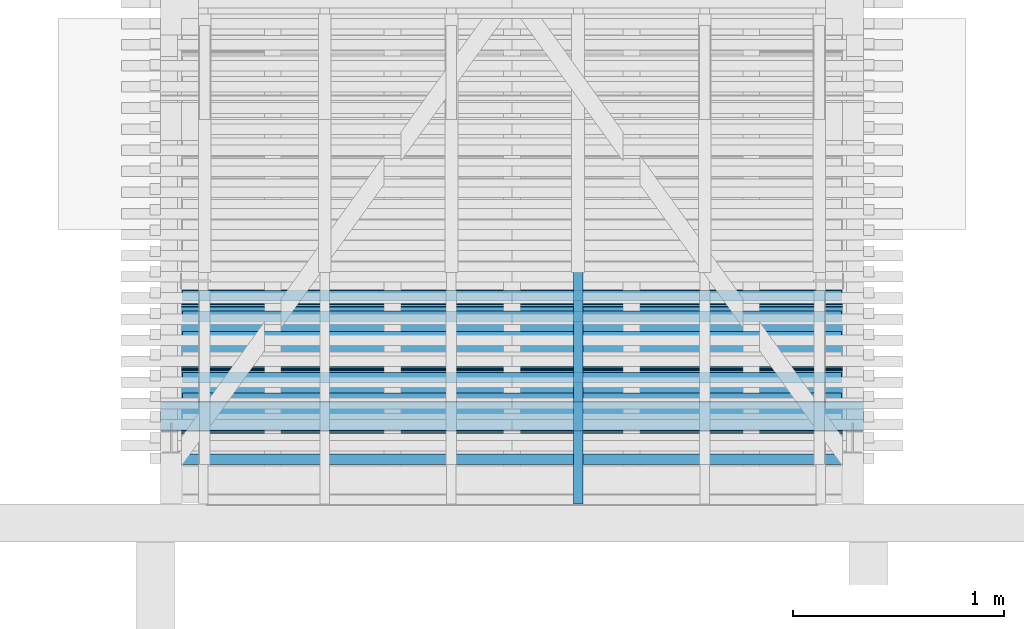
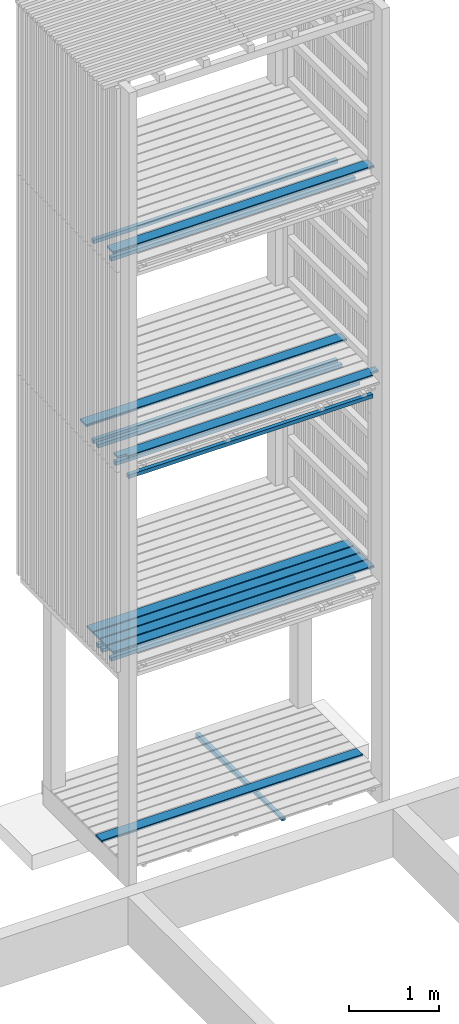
# One storey, part 138 of 182: 18 beams.
"""IFC2X3 building model written with IfcOpenShell, lengths in metres."""

from ifc_helpers import new_model, si_unit, frame, origin, place, context, project, spatial, faceted_brep, element, save


model = new_model("IFC2X3")

# Units and contexts
model_context = context("Model", 3, precision=1e-06, world=origin())
ifc_project = project(units=[si_unit("LENGTHUNIT", "METRE"), si_unit("PLANEANGLEUNIT", "RADIAN")], contexts=[model_context])

# Site, building, storey
site = spatial("IfcSite", under=ifc_project, CompositionType="ELEMENT")
building = spatial("IfcBuilding", under=site, CompositionType="ELEMENT")
storey = spatial("IfcBuildingStorey", under=building, Name="vs", CompositionType="ELEMENT", Elevation=-0.85)

# Beams
placement = place(None, origin())
beam_1_placement = place(placement, frame((36.38499999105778, 11.134577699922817, 0.033500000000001), z_axis=(0.0, 0.0, 1.0), x_axis=(-1.0, -1e-15, 0.0)))
element("IfcBeam", 1, at=beam_1_placement, inside=storey, Name="Caillebotis", context=model_context, shape_type="Brep", body=[
    faceted_brep([(3.329999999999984, -0.067500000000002, 0.0135), (3.329999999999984, -0.072500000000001, 0.008500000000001), (3.329999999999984, -0.072500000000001, -0.013500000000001), (3.329999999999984, 0.072499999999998, -0.013500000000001), (3.329999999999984, 0.072499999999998, 0.0085), (3.329999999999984, 0.067499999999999, 0.0135), (0.0, 0.067499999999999, 0.0135), (0.0, 0.072500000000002, 0.0085), (0.0, 0.072500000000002, -0.013500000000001), (0.0, -0.072500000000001, -0.013500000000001), (0.0, -0.072500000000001, 0.008500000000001), (0.0, -0.067499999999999, 0.0135), (3.329999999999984, -0.072500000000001, -0.013500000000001), (3.329999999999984, -0.072500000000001, 0.008500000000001), (0.0, -0.072500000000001, 0.008500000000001), (0.0, -0.072500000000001, -0.013500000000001), (3.329999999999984, 0.072499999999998, -0.013500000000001), (3.329999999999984, -0.072500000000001, -0.013500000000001), (0.0, -0.072500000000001, -0.013500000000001), (0.0, 0.072500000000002, -0.013500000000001), (3.329999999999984, 0.072499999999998, 0.0085), (3.329999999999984, 0.072499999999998, -0.013500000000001), (0.0, 0.072500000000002, -0.013500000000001), (0.0, 0.072500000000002, 0.0085), (3.329999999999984, 0.067499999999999, 0.0135), (3.329999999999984, 0.072499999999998, 0.0085), (0.0, 0.072500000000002, 0.0085), (0.0, 0.067499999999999, 0.0135), (3.329999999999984, -0.067500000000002, 0.0135), (3.329999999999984, 0.067499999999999, 0.0135), (0.0, 0.067499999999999, 0.0135), (0.0, -0.067499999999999, 0.0135), (0.0, -0.072500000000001, 0.008500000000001), (3.329999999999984, -0.072500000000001, 0.008500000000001), (3.329999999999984, -0.067500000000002, 0.0135), (0.0, -0.067499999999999, 0.0135)], [[[0, 1, 2, 3, 4, 5]], [[6, 7, 8, 9, 10, 11]], [[12, 13, 14, 15]], [[16, 17, 18, 19]], [[20, 21, 22, 23]], [[24, 25, 26, 27]], [[28, 29, 30, 31]], [[32, 33, 34, 35]]]),
])
beam_2_placement = place(placement, frame((36.38499999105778, 11.484577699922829, 5.433499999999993), z_axis=(0.0, 0.0, 1.0), x_axis=(-1.0, -8e-15, 0.0)))
element("IfcBeam", 2, at=beam_2_placement, inside=storey, Name="Caillebotis", context=model_context, shape_type="Brep", body=[
    faceted_brep([(3.329999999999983, -0.072500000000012, -0.0135), (3.329999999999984, 0.072499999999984, -0.0135), (3.329999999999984, 0.072499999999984, 0.0085), (3.329999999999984, 0.067499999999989, 0.0135), (3.329999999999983, -0.067500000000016, 0.0135), (3.329999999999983, -0.072500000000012, 0.008500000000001), (-1.5e-14, -0.072499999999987, 0.008500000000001), (-1.5e-14, -0.067499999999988, 0.0135), (-1.4e-14, 0.067500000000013, 0.0135), (-1.4e-14, 0.072500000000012, 0.0085), (-1.4e-14, 0.072500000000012, -0.0135), (-1.5e-14, -0.072499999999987, -0.0135), (3.329999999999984, 0.072499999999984, 0.0085), (3.329999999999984, 0.072499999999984, -0.0135), (-1.4e-14, 0.072500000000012, -0.0135), (-1.4e-14, 0.072500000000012, 0.0085), (3.329999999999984, 0.067499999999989, 0.0135), (3.329999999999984, 0.072499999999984, 0.0085), (-1.4e-14, 0.072500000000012, 0.0085), (-1.4e-14, 0.067500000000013, 0.0135), (3.329999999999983, -0.067500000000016, 0.0135), (3.329999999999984, 0.067499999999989, 0.0135), (-1.4e-14, 0.067500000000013, 0.0135), (-1.5e-14, -0.067499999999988, 0.0135), (3.329999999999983, -0.072500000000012, 0.008500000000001), (3.329999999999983, -0.067500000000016, 0.0135), (-1.5e-14, -0.067499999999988, 0.0135), (-1.5e-14, -0.072499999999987, 0.008500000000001), (3.329999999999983, -0.072500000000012, -0.0135), (3.329999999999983, -0.072500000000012, 0.008500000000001), (-1.5e-14, -0.072499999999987, 0.008500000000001), (-1.5e-14, -0.072499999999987, -0.0135), (-1.4e-14, 0.072500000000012, -0.0135), (3.329999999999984, 0.072499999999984, -0.0135), (3.329999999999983, -0.072500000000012, -0.0135), (-1.5e-14, -0.072499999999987, -0.0135)], [[[0, 1, 2, 3, 4, 5]], [[6, 7, 8, 9, 10, 11]], [[12, 13, 14, 15]], [[16, 17, 18, 19]], [[20, 21, 22, 23]], [[24, 25, 26, 27]], [[28, 29, 30, 31]], [[32, 33, 34, 35]]]),
])
beam_3_placement = place(placement, frame((35.03299999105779, 10.470077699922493, -0.015599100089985), z_axis=(0.0, 0.0, 1.0), x_axis=(0.0, 1.0, 0.0)))
element("IfcBeam", 3, at=beam_3_placement, inside=storey, Name="Calage", context=model_context, shape_type="Brep", body=[
    faceted_brep([(0.0, 0.02249999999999, 0.002600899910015), (1.91000000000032, 0.02249999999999, -0.035599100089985), (1.91000000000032, -0.022499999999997, -0.035599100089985), (0.0, -0.022499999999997, 0.002600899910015), (0.0, -0.022499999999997, 0.035599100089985), (0.0, 0.02249999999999, 0.035599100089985), (0.0, 0.02249999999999, 0.002600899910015), (0.0, -0.022499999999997, 0.002600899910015), (0.0, 0.02249999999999, 0.035599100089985), (0.0, -0.022499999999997, 0.035599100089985), (1.91000000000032, -0.022499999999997, 0.035599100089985), (1.91000000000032, 0.02249999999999, 0.035599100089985), (0.0, 0.02249999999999, 0.002600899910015), (0.0, 0.02249999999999, 0.035599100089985), (1.91000000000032, 0.02249999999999, 0.035599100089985), (1.91000000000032, 0.02249999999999, -0.035599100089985), (1.91000000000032, 0.02249999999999, -0.035599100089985), (1.91000000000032, 0.02249999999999, 0.035599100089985), (1.91000000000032, -0.022499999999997, 0.035599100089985), (1.91000000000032, -0.022499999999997, -0.035599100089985), (1.91000000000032, -0.022499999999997, -0.035599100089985), (1.91000000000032, -0.022499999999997, 0.035599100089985), (0.0, -0.022499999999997, 0.035599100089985), (0.0, -0.022499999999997, 0.002600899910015)], [[[0, 1, 2, 3]], [[4, 5, 6, 7]], [[8, 9, 10, 11]], [[12, 13, 14, 15]], [[16, 17, 18, 19]], [[20, 21, 22, 23]]]),
])
beam_4_placement = place(placement, frame((36.384999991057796, 11.034577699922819, 2.733499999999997), z_axis=(0.0, 0.0, 1.0), x_axis=(-1.0, -1e-15, 0.0)))
element("IfcBeam", 4, at=beam_4_placement, inside=storey, Name="Caillebotis", context=model_context, shape_type="Brep", body=[
    faceted_brep([(3.329999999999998, -0.072500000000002, -0.0135), (3.329999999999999, 0.072500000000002, -0.0135), (3.329999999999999, 0.072500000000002, 0.0085), (3.329999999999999, 0.067499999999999, 0.0135), (3.329999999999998, -0.067499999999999, 0.0135), (3.329999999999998, -0.072500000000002, 0.008500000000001), (0.0, -0.072499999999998, 0.008500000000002), (0.0, -0.067499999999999, 0.0135), (0.0, 0.067500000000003, 0.0135), (0.0, 0.072500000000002, 0.0085), (0.0, 0.072500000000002, -0.0135), (0.0, -0.072499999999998, -0.0135), (3.329999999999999, 0.072500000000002, 0.0085), (3.329999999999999, 0.072500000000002, -0.0135), (0.0, 0.072500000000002, -0.0135), (0.0, 0.072500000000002, 0.0085), (3.329999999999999, 0.067499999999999, 0.0135), (3.329999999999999, 0.072500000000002, 0.0085), (0.0, 0.072500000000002, 0.0085), (0.0, 0.067500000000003, 0.0135), (3.329999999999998, -0.067499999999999, 0.0135), (3.329999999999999, 0.067499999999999, 0.0135), (0.0, 0.067500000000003, 0.0135), (0.0, -0.067499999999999, 0.0135), (3.329999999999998, -0.072500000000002, 0.008500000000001), (3.329999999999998, -0.067499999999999, 0.0135), (0.0, -0.067499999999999, 0.0135), (0.0, -0.072499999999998, 0.008500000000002), (3.329999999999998, -0.072500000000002, -0.0135), (3.329999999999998, -0.072500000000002, 0.008500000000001), (0.0, -0.072499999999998, 0.008500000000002), (0.0, -0.072499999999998, -0.0135), (0.0, 0.072500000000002, -0.0135), (3.329999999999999, 0.072500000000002, -0.0135), (3.329999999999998, -0.072500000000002, -0.0135), (0.0, -0.072499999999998, -0.0135)], [[[0, 1, 2, 3, 4, 5]], [[6, 7, 8, 9, 10, 11]], [[12, 13, 14, 15]], [[16, 17, 18, 19]], [[20, 21, 22, 23]], [[24, 25, 26, 27]], [[28, 29, 30, 31]], [[32, 33, 34, 35]]]),
])
beam_5_placement = place(placement, frame((36.384999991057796, 10.884577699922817, 8.13349999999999), z_axis=(0.0, 0.0, 1.0), x_axis=(-1.0, -2e-15, 0.0)))
element("IfcBeam", 5, at=beam_5_placement, inside=storey, Name="Caillebotis", context=model_context, shape_type="Brep", body=[
    faceted_brep([(3.329999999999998, -0.072500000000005, -0.013500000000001), (3.329999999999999, 0.072499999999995, -0.013500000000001), (3.329999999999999, 0.072499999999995, 0.008499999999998), (3.329999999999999, 0.067499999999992, 0.013499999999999), (3.329999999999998, -0.067500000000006, 0.013499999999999), (3.329999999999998, -0.072500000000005, 0.0085), (0.0, -0.072500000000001, 0.0085), (0.0, -0.067499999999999, 0.013499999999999), (0.0, 0.067500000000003, 0.013499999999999), (0.0, 0.072500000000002, 0.008499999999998), (0.0, 0.072500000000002, -0.013500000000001), (0.0, -0.072500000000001, -0.013500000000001), (3.329999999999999, 0.072499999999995, 0.008499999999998), (3.329999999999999, 0.072499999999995, -0.013500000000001), (0.0, 0.072500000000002, -0.013500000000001), (0.0, 0.072500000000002, 0.008499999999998), (3.329999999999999, 0.067499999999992, 0.013499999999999), (3.329999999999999, 0.072499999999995, 0.008499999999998), (0.0, 0.072500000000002, 0.008499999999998), (0.0, 0.067500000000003, 0.013499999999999), (3.329999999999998, -0.067500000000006, 0.013499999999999), (3.329999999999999, 0.067499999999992, 0.013499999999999), (0.0, 0.067500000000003, 0.013499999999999), (0.0, -0.067499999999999, 0.013499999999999), (3.329999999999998, -0.072500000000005, 0.0085), (3.329999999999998, -0.067500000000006, 0.013499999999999), (0.0, -0.067499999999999, 0.013499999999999), (0.0, -0.072500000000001, 0.0085), (3.329999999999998, -0.072500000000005, -0.013500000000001), (3.329999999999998, -0.072500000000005, 0.0085), (0.0, -0.072500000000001, 0.0085), (0.0, -0.072500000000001, -0.013500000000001), (0.0, 0.072500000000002, -0.013500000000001), (3.329999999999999, 0.072499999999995, -0.013500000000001), (3.329999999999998, -0.072500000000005, -0.013500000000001), (0.0, -0.072500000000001, -0.013500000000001)], [[[0, 1, 2, 3, 4, 5]], [[6, 7, 8, 9, 10, 11]], [[12, 13, 14, 15]], [[16, 17, 18, 19]], [[20, 21, 22, 23]], [[24, 25, 26, 27]], [[28, 29, 30, 31]], [[32, 33, 34, 35]]]),
])
beam_6_placement = place(placement, frame((36.27999999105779, 10.680077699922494, 5.167999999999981), z_axis=(0.0, 0.0, 1.0), x_axis=(-1.0, 0.0, 0.0)))
element("IfcBeam", 6, at=beam_6_placement, inside=storey, Name="Bardage", context=model_context, shape_type="Brep", body=[
    faceted_brep([(3.120000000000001, -0.025000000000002, 0.025000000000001), (3.120000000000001, -0.025000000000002, -0.025), (3.120000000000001, 0.024999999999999, -0.025), (3.120000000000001, 0.024999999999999, 0.025000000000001), (-3e-15, 0.024999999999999, 0.025000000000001), (-3e-15, 0.024999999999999, -0.025), (-3e-15, -0.024999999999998, -0.025), (-3e-15, -0.024999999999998, 0.025000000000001), (3.120000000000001, -0.025000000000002, -0.025), (3.120000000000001, -0.025000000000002, 0.025000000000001), (-3e-15, -0.024999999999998, 0.025000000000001), (-3e-15, -0.024999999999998, -0.025), (3.120000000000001, 0.024999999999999, -0.025), (3.120000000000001, -0.025000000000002, -0.025), (-3e-15, -0.024999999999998, -0.025), (-3e-15, 0.024999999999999, -0.025), (3.120000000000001, 0.024999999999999, 0.025000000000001), (3.120000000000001, 0.024999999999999, -0.025), (-3e-15, 0.024999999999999, -0.025), (-3e-15, 0.024999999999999, 0.025000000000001), (3.120000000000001, -0.025000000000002, 0.025000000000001), (3.120000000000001, 0.024999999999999, 0.025000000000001), (-3e-15, 0.024999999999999, 0.025000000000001), (-3e-15, -0.024999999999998, 0.025000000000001)], [[[0, 1, 2, 3]], [[4, 5, 6, 7]], [[8, 9, 10, 11]], [[12, 13, 14, 15]], [[16, 17, 18, 19]], [[20, 21, 22, 23]]]),
])
beam_7_placement = place(placement, frame((36.384999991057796, 10.884577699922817, 2.733499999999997), z_axis=(0.0, 0.0, 1.0), x_axis=(-1.0, -2e-15, 0.0)))
element("IfcBeam", 7, at=beam_7_placement, inside=storey, Name="Caillebotis", context=model_context, shape_type="Brep", body=[
    faceted_brep([(3.329999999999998, -0.072500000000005, -0.0135), (3.329999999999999, 0.072499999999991, -0.0135), (3.329999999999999, 0.072499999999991, 0.0085), (3.329999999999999, 0.067499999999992, 0.0135), (3.329999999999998, -0.067500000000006, 0.0135), (3.329999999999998, -0.072500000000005, 0.008500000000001), (0.0, -0.072500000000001, 0.008500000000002), (0.0, -0.067499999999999, 0.0135), (0.0, 0.067499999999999, 0.0135), (0.0, 0.072500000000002, 0.0085), (0.0, 0.072500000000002, -0.0135), (0.0, -0.072500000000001, -0.0135), (3.329999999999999, 0.072499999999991, 0.0085), (3.329999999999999, 0.072499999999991, -0.0135), (0.0, 0.072500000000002, -0.0135), (0.0, 0.072500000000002, 0.0085), (3.329999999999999, 0.067499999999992, 0.0135), (3.329999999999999, 0.072499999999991, 0.0085), (0.0, 0.072500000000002, 0.0085), (0.0, 0.067499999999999, 0.0135), (3.329999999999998, -0.067500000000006, 0.0135), (3.329999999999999, 0.067499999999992, 0.0135), (0.0, 0.067499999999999, 0.0135), (0.0, -0.067499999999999, 0.0135), (3.329999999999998, -0.072500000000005, 0.008500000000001), (3.329999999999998, -0.067500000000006, 0.0135), (0.0, -0.067499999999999, 0.0135), (0.0, -0.072500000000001, 0.008500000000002), (3.329999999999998, -0.072500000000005, -0.0135), (3.329999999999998, -0.072500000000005, 0.008500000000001), (0.0, -0.072500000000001, 0.008500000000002), (0.0, -0.072500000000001, -0.0135), (0.0, 0.072500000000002, -0.0135), (3.329999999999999, 0.072499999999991, -0.0135), (3.329999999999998, -0.072500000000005, -0.0135), (0.0, -0.072500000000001, -0.0135)], [[[0, 1, 2, 3, 4, 5]], [[6, 7, 8, 9, 10, 11]], [[12, 13, 14, 15]], [[16, 17, 18, 19]], [[20, 21, 22, 23]], [[24, 25, 26, 27]], [[28, 29, 30, 31]], [[32, 33, 34, 35]]]),
])
beam_8_placement = place(placement, frame((36.384999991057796, 11.334577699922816, 2.733499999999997), z_axis=(0.0, 0.0, 1.0), x_axis=(-1.0, 0.0, 0.0)))
element("IfcBeam", 8, at=beam_8_placement, inside=storey, Name="Caillebotis", context=model_context, shape_type="Brep", body=[
    faceted_brep([(3.329999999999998, -0.072499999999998, -0.0135), (3.329999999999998, 0.072500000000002, -0.0135), (3.329999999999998, 0.072500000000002, 0.0085), (3.329999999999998, 0.067500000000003, 0.0135), (3.329999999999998, -0.067500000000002, 0.0135), (3.329999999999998, -0.072499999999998, 0.008500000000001), (0.0, -0.072499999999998, 0.008500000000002), (0.0, -0.067500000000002, 0.0135), (0.0, 0.067499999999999, 0.013500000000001), (0.0, 0.072499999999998, 0.0085), (0.0, 0.072499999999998, -0.0135), (0.0, -0.072499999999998, -0.0135), (3.329999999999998, 0.072500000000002, 0.0085), (3.329999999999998, 0.072500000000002, -0.0135), (0.0, 0.072499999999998, -0.0135), (0.0, 0.072499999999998, 0.0085), (3.329999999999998, 0.067500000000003, 0.0135), (3.329999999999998, 0.072500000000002, 0.0085), (0.0, 0.072499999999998, 0.0085), (0.0, 0.067499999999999, 0.013500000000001), (3.329999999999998, -0.067500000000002, 0.0135), (3.329999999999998, 0.067500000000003, 0.0135), (0.0, 0.067499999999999, 0.013500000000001), (0.0, -0.067500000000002, 0.0135), (3.329999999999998, -0.072499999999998, 0.008500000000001), (3.329999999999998, -0.067500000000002, 0.0135), (0.0, -0.067500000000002, 0.0135), (0.0, -0.072499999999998, 0.008500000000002), (3.329999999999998, -0.072499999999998, -0.0135), (3.329999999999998, -0.072499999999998, 0.008500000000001), (0.0, -0.072499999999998, 0.008500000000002), (0.0, -0.072499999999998, -0.0135), (0.0, 0.072499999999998, -0.0135), (3.329999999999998, 0.072500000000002, -0.0135), (3.329999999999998, -0.072499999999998, -0.0135), (0.0, -0.072499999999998, -0.0135)], [[[0, 1, 2, 3, 4, 5]], [[6, 7, 8, 9, 10, 11]], [[12, 13, 14, 15]], [[16, 17, 18, 19]], [[20, 21, 22, 23]], [[24, 25, 26, 27]], [[28, 29, 30, 31]], [[32, 33, 34, 35]]]),
])
beam_9_placement = place(placement, frame((36.27999999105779, 11.067577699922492, 2.467999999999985), z_axis=(0.0, 0.0, 1.0), x_axis=(-1.0, -1e-15, 0.0)))
element("IfcBeam", 9, at=beam_9_placement, inside=storey, Name="Bardage", context=model_context, shape_type="Brep", body=[
    faceted_brep([(3.120000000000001, 0.025000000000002, -0.025), (3.120000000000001, -0.025000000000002, -0.025), (-3e-15, -0.024999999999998, -0.025), (-3e-15, 0.025000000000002, -0.025), (-3e-15, -0.024999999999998, -0.025), (3.120000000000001, -0.025000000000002, -0.025), (3.120000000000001, -0.025000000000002, 0.025), (-3e-15, -0.024999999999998, 0.025), (3.120000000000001, -0.025000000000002, -0.025), (3.120000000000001, 0.025000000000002, -0.025), (3.120000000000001, 0.025000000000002, 0.025), (3.120000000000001, -0.025000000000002, 0.025), (3.120000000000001, 0.025000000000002, 0.025), (3.120000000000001, 0.025000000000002, -0.025), (-3e-15, 0.025000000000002, -0.025), (-3e-15, 0.025000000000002, 0.025), (-3e-15, -0.024999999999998, 0.025), (3.120000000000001, -0.025000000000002, 0.025), (3.120000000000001, 0.025000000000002, 0.025), (-3e-15, 0.025000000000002, 0.025), (-3e-15, -0.024999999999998, -0.025), (-3e-15, -0.024999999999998, 0.025), (-3e-15, 0.025000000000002, 0.025), (-3e-15, 0.025000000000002, -0.025)], [[[0, 1, 2, 3]], [[4, 5, 6, 7]], [[8, 9, 10, 11]], [[12, 13, 14, 15]], [[16, 17, 18, 19]], [[20, 21, 22, 23]]]),
])
beam_10_placement = place(placement, frame((36.27999999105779, 10.970702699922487, 5.167999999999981), z_axis=(0.0, 0.0, 1.0), x_axis=(-1.0, 0.0, 0.0)))
element("IfcBeam", 10, at=beam_10_placement, inside=storey, Name="Bardage", context=model_context, shape_type="Brep", body=[
    faceted_brep([(3.120000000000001, 0.024999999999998, -0.025), (3.120000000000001, -0.025000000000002, -0.025), (-3e-15, -0.025000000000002, -0.025), (-3e-15, 0.024999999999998, -0.025), (-3e-15, -0.025000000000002, -0.025), (3.120000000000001, -0.025000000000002, -0.025), (3.120000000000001, -0.025000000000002, 0.025000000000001), (-3e-15, -0.025000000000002, 0.025000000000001), (3.120000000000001, -0.025000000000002, -0.025), (3.120000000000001, 0.024999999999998, -0.025), (3.120000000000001, 0.024999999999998, 0.025000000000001), (3.120000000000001, -0.025000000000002, 0.025000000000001), (3.120000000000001, 0.024999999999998, 0.025000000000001), (3.120000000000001, 0.024999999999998, -0.025), (-3e-15, 0.024999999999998, -0.025), (-3e-15, 0.024999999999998, 0.025000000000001), (-3e-15, -0.025000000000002, 0.025000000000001), (3.120000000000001, -0.025000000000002, 0.025000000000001), (3.120000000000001, 0.024999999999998, 0.025000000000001), (-3e-15, 0.024999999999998, 0.025000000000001), (-3e-15, -0.025000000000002, -0.025), (-3e-15, -0.025000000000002, 0.025000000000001), (-3e-15, 0.024999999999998, 0.025000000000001), (-3e-15, 0.024999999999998, -0.025)], [[[0, 1, 2, 3]], [[4, 5, 6, 7]], [[8, 9, 10, 11]], [[12, 13, 14, 15]], [[16, 17, 18, 19]], [[20, 21, 22, 23]]]),
])
beam_11_placement = place(placement, frame((36.384999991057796, 10.734577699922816, 5.433499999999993), z_axis=(0.0, 0.0, 1.0), x_axis=(-1.0, 0.0, 0.0)))
element("IfcBeam", 11, at=beam_11_placement, inside=storey, Name="Caillebotis", context=model_context, shape_type="Brep", body=[
    faceted_brep([(0.0, -0.072499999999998, -0.0135), (0.0, -0.072499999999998, 0.008500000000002), (0.0, -0.067499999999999, 0.0135), (0.0, 0.019500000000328, 0.0135), (0.0, 0.019500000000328, -0.0135), (3.329999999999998, -0.067499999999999, 0.0135), (3.329999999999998, 0.019500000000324, 0.0135), (3.225000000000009, 0.019500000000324, 0.0135), (3.225000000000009, 0.067500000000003, 0.0135), (0.105000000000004, 0.067500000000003, 0.0135), (0.105000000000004, 0.019500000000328, 0.0135), (0.0, 0.019500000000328, 0.0135), (0.0, -0.067499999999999, 0.0135), (0.105000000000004, 0.019500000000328, 0.0135), (0.105000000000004, 0.067500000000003, 0.0135), (0.105000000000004, 0.072500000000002, 0.008500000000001), (0.105000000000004, 0.072500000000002, -0.0135), (0.105000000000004, 0.019500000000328, -0.0135), (0.105000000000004, 0.072500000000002, 0.008500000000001), (0.105000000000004, 0.067500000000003, 0.0135), (3.225000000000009, 0.067500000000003, 0.0135), (3.225000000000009, 0.072500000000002, 0.0085), (0.105000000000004, 0.072500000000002, -0.0135), (0.105000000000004, 0.072500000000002, 0.008500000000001), (3.225000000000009, 0.072500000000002, 0.0085), (3.225000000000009, 0.072500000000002, -0.0135), (3.225000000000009, 0.072500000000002, -0.0135), (3.225000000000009, 0.072500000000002, 0.0085), (3.225000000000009, 0.067500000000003, 0.0135), (3.225000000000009, 0.019500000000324, 0.0135), (3.225000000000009, 0.019500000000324, -0.0135), (3.225000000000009, 0.019500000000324, -0.0135), (3.225000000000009, 0.019500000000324, 0.0135), (3.329999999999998, 0.019500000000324, 0.0135), (3.329999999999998, 0.019500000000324, -0.0135), (3.329999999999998, -0.072499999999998, 0.008500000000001), (3.329999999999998, -0.072499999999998, -0.0135), (3.329999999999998, 0.019500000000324, -0.0135), (3.329999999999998, 0.019500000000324, 0.0135), (3.329999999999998, -0.067499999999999, 0.0135), (3.329999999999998, -0.072499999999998, 0.008500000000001), (3.329999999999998, -0.067499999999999, 0.0135), (0.0, -0.067499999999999, 0.0135), (0.0, -0.072499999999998, 0.008500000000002), (3.329999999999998, -0.072499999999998, -0.0135), (3.329999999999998, -0.072499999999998, 0.008500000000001), (0.0, -0.072499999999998, 0.008500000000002), (0.0, -0.072499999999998, -0.0135), (0.105000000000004, 0.019500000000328, -0.0135), (0.105000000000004, 0.072500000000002, -0.0135), (3.225000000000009, 0.072500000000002, -0.0135), (3.225000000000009, 0.019500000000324, -0.0135), (3.329999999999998, 0.019500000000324, -0.0135), (3.329999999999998, -0.072499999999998, -0.0135), (0.0, -0.072499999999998, -0.0135), (0.0, 0.019500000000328, -0.0135), (0.0, 0.019500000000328, 0.0135), (0.105000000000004, 0.019500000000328, 0.0135), (0.105000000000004, 0.019500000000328, -0.0135), (0.0, 0.019500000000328, -0.0135)], [[[0, 1, 2, 3, 4]], [[5, 6, 7, 8, 9, 10, 11, 12]], [[13, 14, 15, 16, 17]], [[18, 19, 20, 21]], [[22, 23, 24, 25]], [[26, 27, 28, 29, 30]], [[31, 32, 33, 34]], [[35, 36, 37, 38, 39]], [[40, 41, 42, 43]], [[44, 45, 46, 47]], [[48, 49, 50, 51, 52, 53, 54, 55]], [[56, 57, 58, 59]]]),
])
beam_12_placement = place(placement, frame((36.27999999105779, 11.358202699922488, 2.467999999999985), z_axis=(0.0, 0.0, 1.0), x_axis=(-1.0, -1e-15, 0.0)))
element("IfcBeam", 12, at=beam_12_placement, inside=storey, Name="Bardage", context=model_context, shape_type="Brep", body=[
    faceted_brep([(3.120000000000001, 0.024999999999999, -0.025), (3.120000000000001, -0.025000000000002, -0.025), (-3e-15, -0.025000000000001, -0.025), (-3e-15, 0.025000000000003, -0.025), (-3e-15, -0.025000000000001, -0.025), (3.120000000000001, -0.025000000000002, -0.025), (3.120000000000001, -0.025000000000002, 0.025), (-3e-15, -0.025000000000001, 0.025), (3.120000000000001, -0.025000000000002, -0.025), (3.120000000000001, 0.024999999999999, -0.025), (3.120000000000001, 0.024999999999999, 0.025), (3.120000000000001, -0.025000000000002, 0.025), (3.120000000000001, 0.024999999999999, 0.025), (3.120000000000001, 0.024999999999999, -0.025), (-3e-15, 0.025000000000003, -0.025), (-3e-15, 0.025000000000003, 0.025), (-3e-15, -0.025000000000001, 0.025), (3.120000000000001, -0.025000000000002, 0.025), (3.120000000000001, 0.024999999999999, 0.025), (-3e-15, 0.025000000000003, 0.025), (-3e-15, -0.025000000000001, -0.025), (-3e-15, -0.025000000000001, 0.025), (-3e-15, 0.025000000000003, 0.025), (-3e-15, 0.025000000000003, -0.025)], [[[0, 1, 2, 3]], [[4, 5, 6, 7]], [[8, 9, 10, 11]], [[12, 13, 14, 15]], [[16, 17, 18, 19]], [[20, 21, 22, 23]]]),
])
beam_13_placement = place(placement, frame((36.384999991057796, 11.18457769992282, 2.733499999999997), z_axis=(0.0, 0.0, 1.0), x_axis=(-1.0, 0.0, 0.0)))
element("IfcBeam", 13, at=beam_13_placement, inside=storey, Name="Caillebotis", context=model_context, shape_type="Brep", body=[
    faceted_brep([(3.329999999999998, -0.072499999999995, -0.0135), (3.329999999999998, 0.072500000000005, -0.0135), (3.329999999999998, 0.072500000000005, 0.0085), (3.329999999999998, 0.067500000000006, 0.0135), (3.329999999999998, -0.067499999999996, 0.0135), (3.329999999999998, -0.072499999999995, 0.008500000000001), (0.0, -0.072499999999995, 0.008500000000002), (0.0, -0.067499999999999, 0.0135), (0.0, 0.067500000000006, 0.0135), (0.0, 0.072500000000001, 0.0085), (0.0, 0.072500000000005, -0.0135), (0.0, -0.072499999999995, -0.0135), (3.329999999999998, 0.072500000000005, 0.0085), (3.329999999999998, 0.072500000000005, -0.0135), (0.0, 0.072500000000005, -0.0135), (0.0, 0.072500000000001, 0.0085), (3.329999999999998, 0.067500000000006, 0.0135), (3.329999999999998, 0.072500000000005, 0.0085), (0.0, 0.072500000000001, 0.0085), (0.0, 0.067500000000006, 0.0135), (3.329999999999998, -0.067499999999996, 0.0135), (3.329999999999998, 0.067500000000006, 0.0135), (0.0, 0.067500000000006, 0.0135), (0.0, -0.067499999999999, 0.0135), (3.329999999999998, -0.072499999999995, 0.008500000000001), (3.329999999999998, -0.067499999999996, 0.0135), (0.0, -0.067499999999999, 0.0135), (0.0, -0.072499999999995, 0.008500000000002), (3.329999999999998, -0.072499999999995, -0.0135), (3.329999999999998, -0.072499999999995, 0.008500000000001), (0.0, -0.072499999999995, 0.008500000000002), (0.0, -0.072499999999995, -0.0135), (0.0, 0.072500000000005, -0.0135), (3.329999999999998, 0.072500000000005, -0.0135), (3.329999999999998, -0.072499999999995, -0.0135), (0.0, -0.072499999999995, -0.0135)], [[[0, 1, 2, 3, 4, 5]], [[6, 7, 8, 9, 10, 11]], [[12, 13, 14, 15]], [[16, 17, 18, 19]], [[20, 21, 22, 23]], [[24, 25, 26, 27]], [[28, 29, 30, 31]], [[32, 33, 34, 35]]]),
])
beam_14_placement = place(placement, frame((36.27999999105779, 11.455077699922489, 7.867999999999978), z_axis=(0.0, 0.0, 1.0), x_axis=(-1.0, -1e-15, 0.0)))
element("IfcBeam", 14, at=beam_14_placement, inside=storey, Name="Bardage", context=model_context, shape_type="Brep", body=[
    faceted_brep([(3.120000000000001, 0.025000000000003, -0.025000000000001), (3.120000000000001, -0.025000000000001, -0.025000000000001), (-3e-15, -0.024999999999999, -0.025000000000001), (-3e-15, 0.025000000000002, -0.025000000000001), (-3e-15, -0.024999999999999, -0.025000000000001), (3.120000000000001, -0.025000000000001, -0.025000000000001), (3.120000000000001, -0.025000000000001, 0.024999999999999), (-3e-15, -0.024999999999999, 0.024999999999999), (3.120000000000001, -0.025000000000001, -0.025000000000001), (3.120000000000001, 0.025000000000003, -0.025000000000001), (3.120000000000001, 0.025000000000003, 0.024999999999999), (3.120000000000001, -0.025000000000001, 0.024999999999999), (3.120000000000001, 0.025000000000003, 0.024999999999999), (3.120000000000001, 0.025000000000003, -0.025000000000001), (-3e-15, 0.025000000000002, -0.025000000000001), (-3e-15, 0.025000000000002, 0.024999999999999), (-3e-15, -0.024999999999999, 0.024999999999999), (3.120000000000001, -0.025000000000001, 0.024999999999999), (3.120000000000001, 0.025000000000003, 0.024999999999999), (-3e-15, 0.025000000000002, 0.024999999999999), (-3e-15, -0.024999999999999, -0.025000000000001), (-3e-15, -0.024999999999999, 0.024999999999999), (-3e-15, 0.025000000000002, 0.024999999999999), (-3e-15, 0.025000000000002, -0.025000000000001)], [[[0, 1, 2, 3]], [[4, 5, 6, 7]], [[8, 9, 10, 11]], [[12, 13, 14, 15]], [[16, 17, 18, 19]], [[20, 21, 22, 23]]]),
])
beam_15_placement = place(placement, frame((36.27999999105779, 11.455077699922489, 5.167999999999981), z_axis=(0.0, 0.0, 1.0), x_axis=(-1.0, -1e-15, 0.0)))
element("IfcBeam", 15, at=beam_15_placement, inside=storey, Name="Bardage", context=model_context, shape_type="Brep", body=[
    faceted_brep([(3.120000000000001, 0.025000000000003, -0.025), (3.120000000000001, -0.025000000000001, -0.025), (-3e-15, -0.024999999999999, -0.025), (-3e-15, 0.025000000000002, -0.025), (-3e-15, -0.024999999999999, -0.025), (3.120000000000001, -0.025000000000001, -0.025), (3.120000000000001, -0.025000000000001, 0.025000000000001), (-3e-15, -0.024999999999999, 0.025000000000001), (3.120000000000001, -0.025000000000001, -0.025), (3.120000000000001, 0.025000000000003, -0.025), (3.120000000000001, 0.025000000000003, 0.025000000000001), (3.120000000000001, -0.025000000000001, 0.025000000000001), (3.120000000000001, 0.025000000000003, 0.025000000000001), (3.120000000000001, 0.025000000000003, -0.025), (-3e-15, 0.025000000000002, -0.025), (-3e-15, 0.025000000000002, 0.025000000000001), (-3e-15, -0.024999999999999, 0.025000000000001), (3.120000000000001, -0.025000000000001, 0.025000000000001), (3.120000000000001, 0.025000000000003, 0.025000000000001), (-3e-15, 0.025000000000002, 0.025000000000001), (-3e-15, -0.024999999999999, -0.025), (-3e-15, -0.024999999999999, 0.025000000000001), (-3e-15, 0.025000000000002, 0.025000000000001), (-3e-15, 0.025000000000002, -0.025)], [[[0, 1, 2, 3]], [[4, 5, 6, 7]], [[8, 9, 10, 11]], [[12, 13, 14, 15]], [[16, 17, 18, 19]], [[20, 21, 22, 23]]]),
])
beam_16_placement = place(placement, frame((36.27999999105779, 11.261327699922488, 2.467999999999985), z_axis=(0.0, 0.0, 1.0), x_axis=(-1.0, 0.0, 0.0)))
element("IfcBeam", 16, at=beam_16_placement, inside=storey, Name="Bardage", context=model_context, shape_type="Brep", body=[
    faceted_brep([(3.120000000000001, 0.024999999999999, -0.025), (3.120000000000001, -0.024999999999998, -0.025), (-3e-15, -0.025000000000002, -0.025), (-3e-15, 0.024999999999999, -0.025), (-3e-15, -0.025000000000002, -0.025), (3.120000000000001, -0.024999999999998, -0.025), (3.120000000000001, -0.024999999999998, 0.025), (-3e-15, -0.025000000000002, 0.025), (3.120000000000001, -0.024999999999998, -0.025), (3.120000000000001, 0.024999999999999, -0.025), (3.120000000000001, 0.024999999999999, 0.025), (3.120000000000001, -0.024999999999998, 0.025), (3.120000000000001, 0.024999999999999, 0.025), (3.120000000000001, 0.024999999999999, -0.025), (-3e-15, 0.024999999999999, -0.025), (-3e-15, 0.024999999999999, 0.025), (-3e-15, -0.025000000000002, 0.025), (3.120000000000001, -0.024999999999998, 0.025), (3.120000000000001, 0.024999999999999, 0.025), (-3e-15, 0.024999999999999, 0.025), (-3e-15, -0.025000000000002, -0.025), (-3e-15, -0.025000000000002, 0.025), (-3e-15, 0.024999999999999, 0.025), (-3e-15, 0.024999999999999, -0.025)], [[[0, 1, 2, 3]], [[4, 5, 6, 7]], [[8, 9, 10, 11]], [[12, 13, 14, 15]], [[16, 17, 18, 19]], [[20, 21, 22, 23]]]),
])
beam_17_placement = place(placement, frame((36.27999999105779, 11.358202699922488, 5.167999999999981), z_axis=(0.0, 0.0, 1.0), x_axis=(-1.0, -1e-15, 0.0)))
element("IfcBeam", 17, at=beam_17_placement, inside=storey, Name="Bardage", context=model_context, shape_type="Brep", body=[
    faceted_brep([(3.120000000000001, 0.024999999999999, -0.025), (3.120000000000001, -0.025000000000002, -0.025), (-3e-15, -0.025000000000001, -0.025), (-3e-15, 0.025000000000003, -0.025), (-3e-15, -0.025000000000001, -0.025), (3.120000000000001, -0.025000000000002, -0.025), (3.120000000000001, -0.025000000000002, 0.025000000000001), (-3e-15, -0.025000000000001, 0.025000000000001), (3.120000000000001, -0.025000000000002, -0.025), (3.120000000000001, 0.024999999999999, -0.025), (3.120000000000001, 0.024999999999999, 0.025000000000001), (3.120000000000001, -0.025000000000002, 0.025000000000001), (3.120000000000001, 0.024999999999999, 0.025000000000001), (3.120000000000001, 0.024999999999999, -0.025), (-3e-15, 0.025000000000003, -0.025), (-3e-15, 0.025000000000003, 0.025000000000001), (-3e-15, -0.025000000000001, 0.025000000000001), (3.120000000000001, -0.025000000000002, 0.025000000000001), (3.120000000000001, 0.024999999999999, 0.025000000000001), (-3e-15, 0.025000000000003, 0.025000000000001), (-3e-15, -0.025000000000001, -0.025), (-3e-15, -0.025000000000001, 0.025000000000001), (-3e-15, 0.025000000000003, 0.025000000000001), (-3e-15, 0.025000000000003, -0.025)], [[[0, 1, 2, 3]], [[4, 5, 6, 7]], [[8, 9, 10, 11]], [[12, 13, 14, 15]], [[16, 17, 18, 19]], [[20, 21, 22, 23]]]),
])
beam_18_placement = place(placement, frame((36.27999999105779, 11.067577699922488, 7.867999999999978), z_axis=(0.0, 0.0, 1.0), x_axis=(-1.0, 0.0, 0.0)))
element("IfcBeam", 18, at=beam_18_placement, inside=storey, Name="Bardage", context=model_context, shape_type="Brep", body=[
    faceted_brep([(3.120000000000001, 0.025000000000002, -0.025000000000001), (3.120000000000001, -0.025000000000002, -0.025000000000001), (-3e-15, -0.025000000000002, -0.025000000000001), (-3e-15, 0.024999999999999, -0.025000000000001), (-3e-15, -0.025000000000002, -0.025000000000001), (3.120000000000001, -0.025000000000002, -0.025000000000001), (3.120000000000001, -0.025000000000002, 0.024999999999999), (-3e-15, -0.025000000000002, 0.024999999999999), (3.120000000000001, -0.025000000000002, -0.025000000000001), (3.120000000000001, 0.025000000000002, -0.025000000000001), (3.120000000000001, 0.025000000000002, 0.024999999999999), (3.120000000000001, -0.025000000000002, 0.024999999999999), (3.120000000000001, 0.025000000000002, 0.024999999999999), (3.120000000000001, 0.025000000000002, -0.025000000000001), (-3e-15, 0.024999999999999, -0.025000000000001), (-3e-15, 0.024999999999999, 0.024999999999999), (-3e-15, -0.025000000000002, 0.024999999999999), (3.120000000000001, -0.025000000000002, 0.024999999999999), (3.120000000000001, 0.025000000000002, 0.024999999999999), (-3e-15, 0.024999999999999, 0.024999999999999), (-3e-15, -0.025000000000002, -0.025000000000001), (-3e-15, -0.025000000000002, 0.024999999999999), (-3e-15, 0.024999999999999, 0.024999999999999), (-3e-15, 0.024999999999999, -0.025000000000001)], [[[0, 1, 2, 3]], [[4, 5, 6, 7]], [[8, 9, 10, 11]], [[12, 13, 14, 15]], [[16, 17, 18, 19]], [[20, 21, 22, 23]]]),
])

save(model, "model.ifc")
